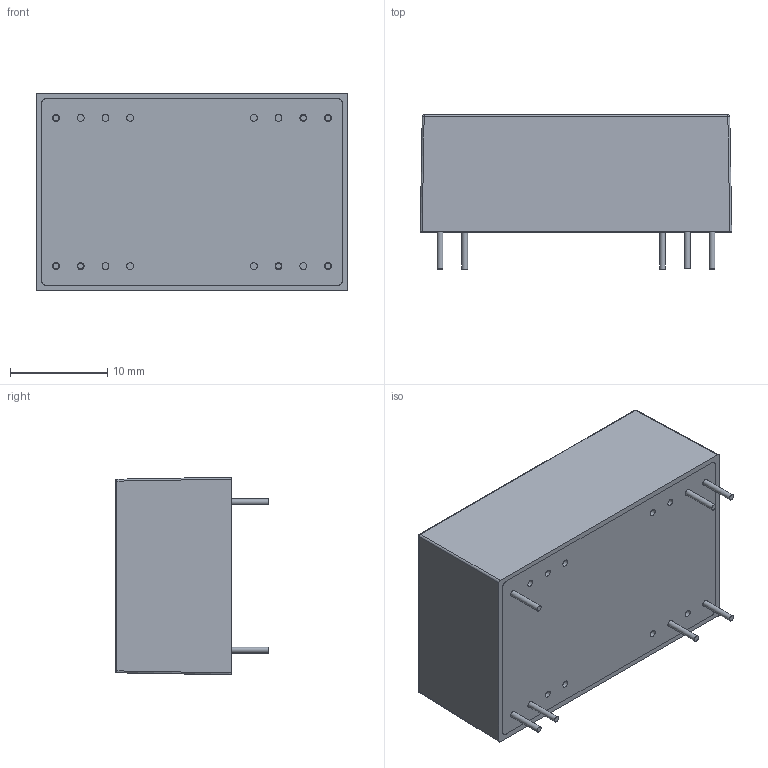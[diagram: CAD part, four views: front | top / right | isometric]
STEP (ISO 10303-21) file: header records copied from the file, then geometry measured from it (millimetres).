
FILE_DESCRIPTION(/* description */ (''),/* implementation_level */ '2;1');
FILE_NAME(/* name */ 'C:\Users\Calliope\Desktop\TRI 3.stp',/* time_stamp */ '2019-04-16T11:32:43+08:00',/* author */ ('Calliope'),/* organization */ (''),/* preprocessor_version */ 'ST-DEVELOPER v15.6',/* originating_system */ 'Autodesk Inventor 2015',/* authorisation */ '');
FILE_SCHEMA (('AUTOMOTIVE_DESIGN { 1 0 10303 214 3 1 1 }'));
Length unit declared in the file: millimetre
Products named in the file (1): TRI 3
Bounding box: 32 x 15.8 x 20.3 mm (x, y, z)
Volume: 7668.1 mm3; surface area: 2593.9 mm2
Topology: 1 solids, 1 shells, 85 faces, 168 edges, 105 vertices
Faces by surface type: plane 42, cylinder 39, sphere 4
Full cylindrical faces by diameter (mm): 0.6 x7, 0.7 x16
Entity records: 2018 total; most frequent: DIRECTION 384, CARTESIAN_POINT 318, ORIENTED_EDGE 268, AXIS2_PLACEMENT_3D 164, EDGE_CURVE 134, EDGE_LOOP 132, VERTEX_POINT 98, FACE_OUTER_BOUND 85
